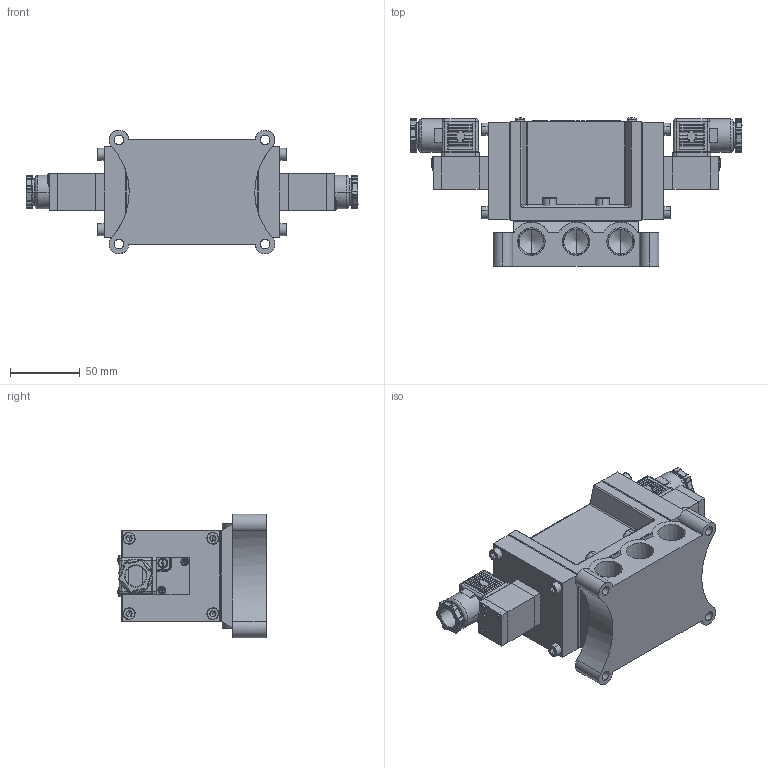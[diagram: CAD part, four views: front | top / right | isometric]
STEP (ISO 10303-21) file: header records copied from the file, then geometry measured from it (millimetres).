
FILE_DESCRIPTION (( 'STEP AP203' ), '1' );
FILE_NAME ('PMD2410#-04-#C#.STEP', '2016-03-09T06:26:40', ( 'Sam Lin' ), ( '' ), 'SwSTEP 2.0', 'SolidWorks 2013', '' );
FILE_SCHEMA (( 'CONFIG_CONTROL_DESIGN' ));
Length unit declared in the file: metre
Products named in the file (17): PM06-C3-M4_1; PMS2306-6(C); ISO 4762 M6 x 20; PMS2410-6(04); PM10-MARK-2410; PMD2410#-04-#C#; PMS2410-7; PMS2410-1; PMS2410-8; PMS2410-2; PM06-C1_1; PMS2410-3; PM06-C4_1; PMS2410-4; PM06-C6-M3_1; ISO 4762 M5 x 20; PM06-C5_1
Assembly tree (39 placements, depth 2):
  PMD2410#-04-#C#
    PMS2410-1
    PMS2410-2
    PMS2410-3  x2
    PMS2410-4  x2
    ISO 4762 M5 x 20  x8
    PM06-C3-M4_1  x4
    ISO 4762 M6 x 20  x4
    PM10-MARK-2410
    PMS2410-7
    PMS2410-8  x2
    PM06-C1_1  x2
    PM06-C4_1  x2
    PM06-C6-M3_1  x4
    PM06-C5_1  x2
    PMS2306-6(C)  x2
    PMS2410-6(04)
Bounding box: 238 x 106.35 x 88.61 mm (x, y, z)
Volume: 762044.5 mm3; surface area: 181658.4 mm2
Topology: 45 solids, 45 shells, 1636 faces, 4093 edges, 2359 vertices
Faces by surface type: plane 630, cylinder 468, bspline 400, cone 138
Entity records: 33665 total; most frequent: CARTESIAN_POINT 14482, ORIENTED_EDGE 3594, DIRECTION 3260, EDGE_CURVE 1797, AXIS2_PLACEMENT_3D 1203, VERTEX_POINT 1133, EDGE_LOOP 876, LINE 854
